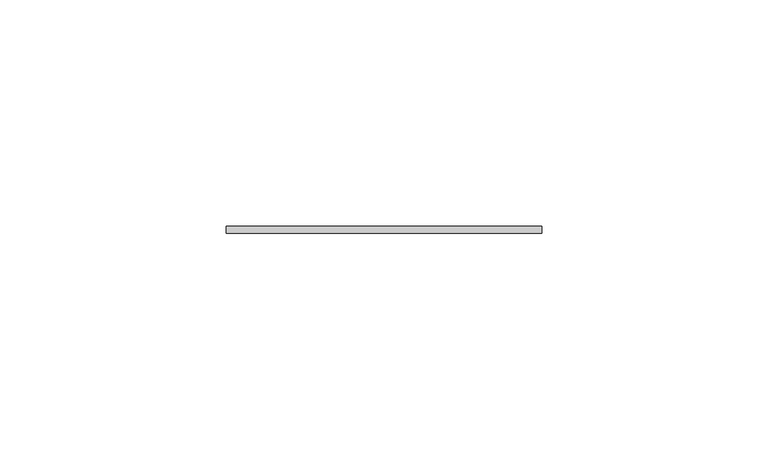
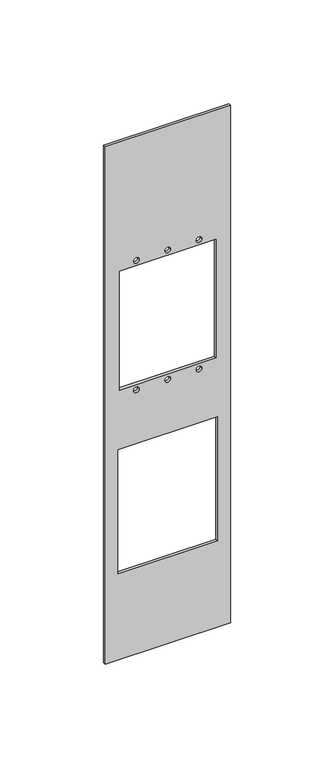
"""IFC4 building model written with IfcOpenShell, lengths in millimetres: proxy geometry, Accessory-Wiremold-Data_And_AV_Add_on_Cover_30_Series_Poles : 30TC-AAP."""

from ifc_helpers import new_model, si_unit, point, frame, frame_2d, origin, place, context, project, spatial, polyline, circle_curve, trimmed, segment, composite_curve, outline, extrude, source, transform, mapped, element, save


def communication_devices_a91e55b9(model_context):
    return source(origin(), model_context, "Body", "SweptSolid", [
        extrude(outline(polyline([(304.8, 34.925), (304.8, -34.925), (0.0, -34.925), (0.0, 34.925), (304.8, 34.925)]), holes=[polyline([(123.825, 27.78125), (50.8, 27.78125), (50.8, -27.78125), (123.825, -27.78125), (123.825, 27.78125)]), polyline([(228.6, 26.9875), (158.75, 26.9875), (158.75, -26.9875), (228.6, -26.9875), (228.6, 26.9875)]), composite_curve([segment(trimmed(circle_curve(frame_2d((155.575, 0.0)), 1.5875), [point((155.575, -1.5875))], [point((155.575, 1.5875))], True, "CARTESIAN"), True, "CONTINUOUS"), segment(trimmed(circle_curve(frame_2d((155.575, 0.0)), 1.5875), [point((155.575, 1.5875))], [point((155.575, -1.5875))], True, "CARTESIAN"), True, "CONTINUOUS")], self_intersect=False), composite_curve([segment(trimmed(circle_curve(frame_2d((155.575, 17.4625)), 1.5875), [point((155.575, 15.875))], [point((155.575, 19.05))], True, "CARTESIAN"), True, "CONTINUOUS"), segment(trimmed(circle_curve(frame_2d((155.575, 17.4625)), 1.5875), [point((155.575, 19.05))], [point((155.575, 15.875))], True, "CARTESIAN"), True, "CONTINUOUS")], self_intersect=False), composite_curve([segment(trimmed(circle_curve(frame_2d((155.575, -17.4625)), 1.5875), [point((155.575, -19.05))], [point((155.575, -15.875))], True, "CARTESIAN"), True, "CONTINUOUS"), segment(trimmed(circle_curve(frame_2d((155.575, -17.4625)), 1.5875), [point((155.575, -15.875))], [point((155.575, -19.05))], True, "CARTESIAN"), True, "CONTINUOUS")], self_intersect=False), composite_curve([segment(trimmed(circle_curve(frame_2d((231.775, 0.0)), 1.5875), [point((231.775, -1.5875))], [point((231.775, 1.5875))], True, "CARTESIAN"), True, "CONTINUOUS"), segment(trimmed(circle_curve(frame_2d((231.775, 0.0)), 1.5875), [point((231.775, 1.5875))], [point((231.775, -1.5875))], True, "CARTESIAN"), True, "CONTINUOUS")], self_intersect=False), composite_curve([segment(trimmed(circle_curve(frame_2d((231.775, 17.4625)), 1.5875), [point((231.775, 15.875))], [point((231.775, 19.05))], True, "CARTESIAN"), True, "CONTINUOUS"), segment(trimmed(circle_curve(frame_2d((231.775, 17.4625)), 1.5875), [point((231.775, 19.05))], [point((231.775, 15.875))], True, "CARTESIAN"), True, "CONTINUOUS")], self_intersect=False), composite_curve([segment(trimmed(circle_curve(frame_2d((231.775, -17.4625)), 1.5875), [point((231.775, -19.05))], [point((231.775, -15.875))], True, "CARTESIAN"), True, "CONTINUOUS"), segment(trimmed(circle_curve(frame_2d((231.775, -17.4625)), 1.5875), [point((231.775, -15.875))], [point((231.775, -19.05))], True, "CARTESIAN"), True, "CONTINUOUS")], self_intersect=False)]), frame((0.0, 0.0, 0.0), z_axis=(0.0, 1.0, 0.0), x_axis=(0.0, 0.0, 1.0)), (0.0, 0.0, 1.0), 1.5875),
    ])


if __name__ == "__main__":
    model = new_model("IFC4")
    model_context = context("Model", 3, world=origin())
    ifc_project = project(units=[si_unit("LENGTHUNIT", "METRE", prefix="MILLI")], contexts=[model_context])
    site = spatial("IfcSite", under=ifc_project)
    building = spatial("IfcBuilding", under=site)
    placement = place(None, origin())
    communication_devices_shape = communication_devices_a91e55b9(model_context)
    element("IfcBuildingElementProxy", 1, Name="Accessory-Wiremold-Data_And_AV_Add_on_Cover_30_Series_Poles : 30TC-AAP", ObjectType="Accessory-Wiremold-Data_And_AV_Add_on_Cover_30_Series_Poles : 30TC-AAP", at=placement, inside=building, context=model_context, shape_type="MappedRepresentation", body=[
        mapped(communication_devices_shape, transform((0.0, 0.0, 0.0), x_axis=(1.0, 0.0, 0.0), y_axis=(0.0, 1.0, 0.0), z_axis=(0.0, 0.0, 1.0))),
    ])
    save(model, "model.ifc")
